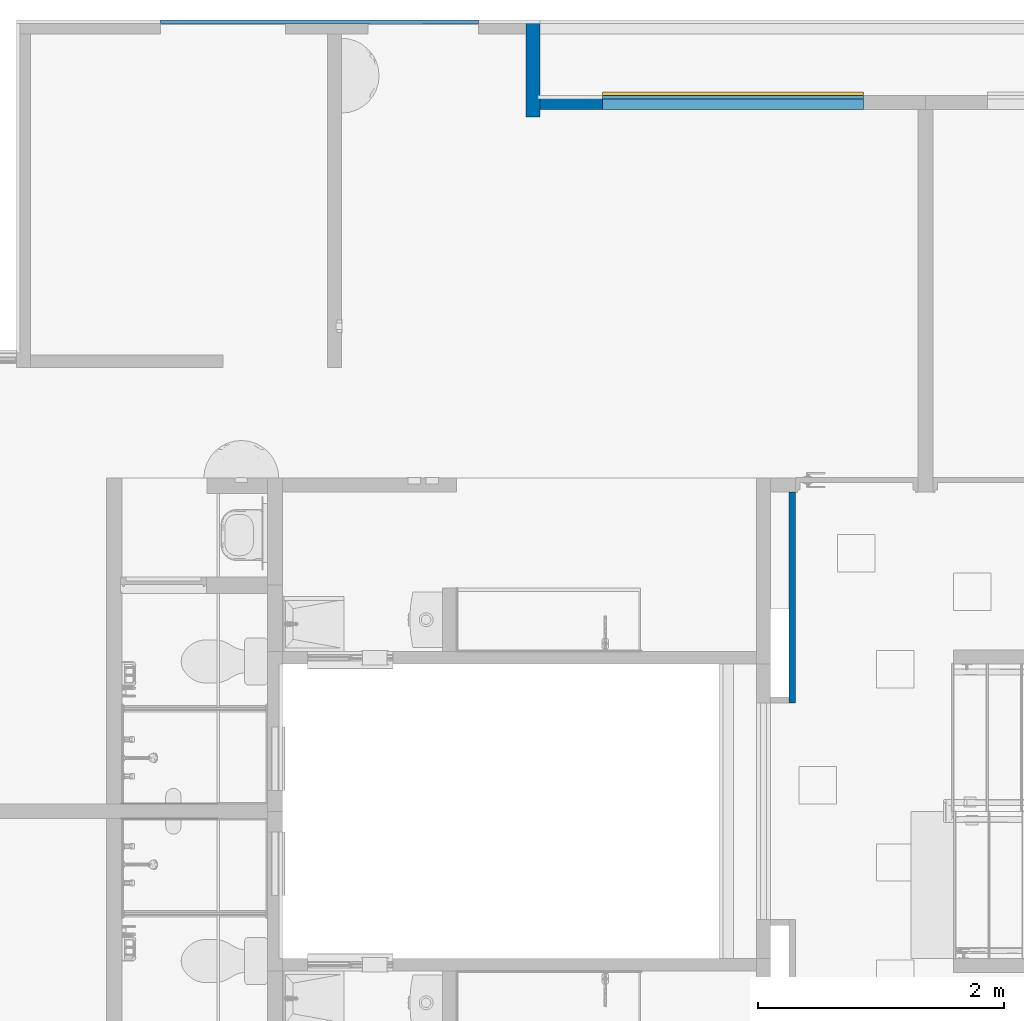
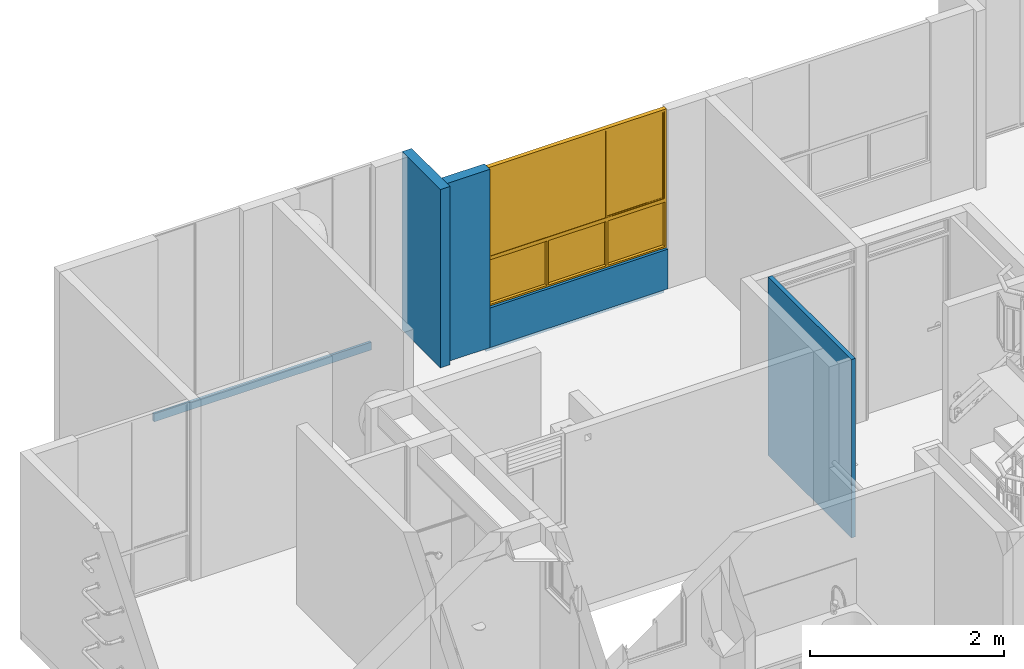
# One storey, part 20 of 51: 6 walls, 1 window, 1 opening.
"""IFC4 building model written with IfcOpenShell, lengths in metres."""

from ifc_helpers import new_model, entity, si_unit, converted_unit, derived_unit, direction, frame, origin, place, context, subcontext, project, spatial, indexed_curve, outline, extrude, polygons, source, transform, mapped, material, constituent, constituent_set, type_object, type_shapes, element, fill, save


model = new_model("IFC4")

# Units and contexts
model_context = context("Model", 3, precision=1e-05, world=origin(), true_north=direction((6.123031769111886e-17, 1.0)))
body_context = subcontext(model_context, "Body", "Model", "MODEL_VIEW")
ifc_project = project(units=[si_unit("LENGTHUNIT", "METRE"), si_unit("AREAUNIT", "SQUARE_METRE"), si_unit("VOLUMEUNIT", "CUBIC_METRE"), converted_unit("PLANEANGLEUNIT", "DEGREE", entity("IfcRatioMeasure", 0.017453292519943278), si_unit("PLANEANGLEUNIT", "RADIAN"), dimensions=[0, 0, 0, 0, 0, 0, 0]), si_unit("MASSUNIT", "GRAM", prefix="KILO"), derived_unit("MASSDENSITYUNIT", [(si_unit("MASSUNIT", "GRAM", prefix="KILO"), 1), (si_unit("LENGTHUNIT", "METRE"), -3)]), derived_unit("IONCONCENTRATIONUNIT", [(si_unit("MASSUNIT", "GRAM", prefix="KILO"), 1), (si_unit("LENGTHUNIT", "METRE"), -3)]), derived_unit("MOMENTOFINERTIAUNIT", [(si_unit("LENGTHUNIT", "METRE"), 4)]), si_unit("TIMEUNIT", "SECOND"), si_unit("FREQUENCYUNIT", "HERTZ"), si_unit("THERMODYNAMICTEMPERATUREUNIT", "DEGREE_CELSIUS"), derived_unit("THERMALTRANSMITTANCEUNIT", [(si_unit("MASSUNIT", "GRAM", prefix="KILO"), 1), (si_unit("THERMODYNAMICTEMPERATUREUNIT", "KELVIN"), -1), (si_unit("TIMEUNIT", "SECOND"), -3)]), derived_unit("THERMALCONDUCTANCEUNIT", [(si_unit("MASSUNIT", "GRAM", prefix="KILO"), 1), (si_unit("THERMODYNAMICTEMPERATUREUNIT", "KELVIN"), -1), (si_unit("TIMEUNIT", "SECOND"), -3), (si_unit("LENGTHUNIT", "METRE"), 1)]), derived_unit("VOLUMETRICFLOWRATEUNIT", [(si_unit("LENGTHUNIT", "METRE"), 3), (si_unit("TIMEUNIT", "SECOND"), -1)]), derived_unit("MASSFLOWRATEUNIT", [(si_unit("MASSUNIT", "GRAM", prefix="KILO"), 1), (si_unit("TIMEUNIT", "SECOND"), -1)]), derived_unit("ROTATIONALFREQUENCYUNIT", [(si_unit("TIMEUNIT", "SECOND"), -1)]), si_unit("ELECTRICCURRENTUNIT", "AMPERE"), si_unit("ELECTRICVOLTAGEUNIT", "VOLT"), si_unit("POWERUNIT", "WATT"), si_unit("FORCEUNIT", "NEWTON", prefix="KILO"), si_unit("ILLUMINANCEUNIT", "LUX"), si_unit("LUMINOUSFLUXUNIT", "LUMEN"), si_unit("LUMINOUSINTENSITYUNIT", "CANDELA"), derived_unit("USERDEFINED", [(si_unit("MASSUNIT", "GRAM", prefix="KILO"), -1), (si_unit("LENGTHUNIT", "METRE"), -2), (si_unit("TIMEUNIT", "SECOND"), 3), (si_unit("LUMINOUSFLUXUNIT", "LUMEN"), 1)]), derived_unit("USERDEFINED", [(si_unit("MASSUNIT", "GRAM", prefix="KILO"), 1), (si_unit("TIMEUNIT", "SECOND"), -3), (si_unit("LENGTHUNIT", "METRE"), 3), (si_unit("ELECTRICCURRENTUNIT", "AMPERE"), -2)]), derived_unit("SOUNDPOWERUNIT", [(si_unit("MASSUNIT", "GRAM", prefix="KILO"), 1), (si_unit("TIMEUNIT", "SECOND"), -3), (si_unit("LENGTHUNIT", "METRE"), 2)]), derived_unit("SOUNDPRESSUREUNIT", [(si_unit("MASSUNIT", "GRAM", prefix="KILO"), 1), (si_unit("LENGTHUNIT", "METRE"), -1), (si_unit("TIMEUNIT", "SECOND"), -2)]), derived_unit("LINEARVELOCITYUNIT", [(si_unit("LENGTHUNIT", "METRE"), 1), (si_unit("TIMEUNIT", "SECOND"), -1)]), si_unit("PRESSUREUNIT", "PASCAL"), derived_unit("USERDEFINED", [(si_unit("MASSUNIT", "GRAM", prefix="KILO"), 1), (si_unit("LENGTHUNIT", "METRE"), -2), (si_unit("TIMEUNIT", "SECOND"), -2)]), derived_unit("LINEARFORCEUNIT", [(si_unit("MASSUNIT", "GRAM", prefix="KILO"), 1), (si_unit("TIMEUNIT", "SECOND"), -2)]), derived_unit("PLANARFORCEUNIT", [(si_unit("MASSUNIT", "GRAM", prefix="KILO"), 1), (si_unit("LENGTHUNIT", "METRE"), -1), (si_unit("TIMEUNIT", "SECOND"), -2)]), derived_unit("SPECIFICHEATCAPACITYUNIT", [(si_unit("THERMODYNAMICTEMPERATUREUNIT", "KELVIN"), -1), (si_unit("LENGTHUNIT", "METRE"), 2), (si_unit("TIMEUNIT", "SECOND"), -2)]), derived_unit("HEATINGVALUEUNIT", [(si_unit("LENGTHUNIT", "METRE"), 2), (si_unit("TIMEUNIT", "SECOND"), -2)]), derived_unit("VAPORPERMEABILITYUNIT", [(si_unit("LENGTHUNIT", "METRE"), -1), (si_unit("TIMEUNIT", "SECOND"), 1)]), derived_unit("DYNAMICVISCOSITYUNIT", [(si_unit("MASSUNIT", "GRAM", prefix="KILO"), 1), (si_unit("TIMEUNIT", "SECOND"), -1), (si_unit("LENGTHUNIT", "METRE"), -1)]), derived_unit("THERMALEXPANSIONCOEFFICIENTUNIT", [(si_unit("THERMODYNAMICTEMPERATUREUNIT", "KELVIN"), -1)]), derived_unit("MODULUSOFELASTICITYUNIT", [(si_unit("MASSUNIT", "GRAM", prefix="KILO"), 1), (si_unit("LENGTHUNIT", "METRE"), -1), (si_unit("TIMEUNIT", "SECOND"), -2)]), derived_unit("ISOTHERMALMOISTURECAPACITYUNIT", [(si_unit("LENGTHUNIT", "METRE"), 3), (si_unit("MASSUNIT", "GRAM", prefix="KILO"), -1)]), derived_unit("MOISTUREDIFFUSIVITYUNIT", [(si_unit("TIMEUNIT", "SECOND"), -1), (si_unit("LENGTHUNIT", "METRE"), 2)])], contexts=[model_context])

# Site, building, storey
site_placement = place(None, origin())
site = spatial("IfcSite", under=ifc_project, at=site_placement, Name="Default", CompositionType="ELEMENT")
building_placement = place(site_placement, origin())
building = spatial("IfcBuilding", under=site, at=building_placement, CompositionType="ELEMENT")
storey_placement = place(building_placement, frame((0.0, 0.0, 2.350000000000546)))
storey = spatial("IfcBuildingStorey", under=building, at=storey_placement, Name="Nivel 2", CompositionType="ELEMENT", Elevation=2.350000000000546)

# Wall
ifc_material_1 = material(Name="Ladrillo claro (Aire)", Category="Materials")
wall_type_1 = type_object("IfcWallType", Name="Basic Wall:B2010 - 0.115m - Muro exterior en mampostería - Ladrillo", PredefinedType="STANDARD")
wall_1_placement = place(storey_placement, frame((6.124999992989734, 0.01999997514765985, 0.0), z_axis=(0.0, 0.0, 1.0), x_axis=(0.0, -1.0, 0.0)))
element("IfcWall", 1, at=wall_1_placement, inside=storey, type_object=wall_type_1, material=ifc_material_1, Name="Basic Wall:B2010 - 0.115m - Muro exterior en mampostería - Ladrillo", ObjectType="Basic Wall:B2010 - 0.115m - Muro exterior en mampostería - Ladrillo", PredefinedType="NOTDEFINED", context=body_context, shape_type="SweptSolid", body=[
    extrude(outline(indexed_curve([(0.7899180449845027, 0.05750000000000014), (1.6929241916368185e-18, 0.057499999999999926), (-1.6929241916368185e-18, -0.057499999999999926), (0.7899180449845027, -0.057499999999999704), (0.7899180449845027, 0.05750000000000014)], self_intersect=False)), origin(), (0.0, 0.0, 1.0), 2.2500000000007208),
])

# Wall, opening, window
wall_2_placement = place(storey_placement, frame((6.692499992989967, -0.6525000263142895, 0.0)))
wall_2 = element("IfcWall", 2, at=wall_2_placement, inside=storey, type_object=wall_type_1, material=ifc_material_1, Name="Basic Wall:B2010 - 0.115m - Muro exterior en mampostería - Ladrillo", ObjectType="Basic Wall:B2010 - 0.115m - Muro exterior en mampostería - Ladrillo", PredefinedType="NOTDEFINED", context=body_context, shape_type="Tessellation", body=[
    polygons([(4.788365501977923e-16, -0.05750000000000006, 0.0), (2.1249999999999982, -0.05750000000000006, 0.0), (2.1249999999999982, -0.05750000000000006, 0.49999999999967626), (4.788365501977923e-16, -0.05750000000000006, 0.49999999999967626), (2.1249999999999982, 0.05749999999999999, 0.0), (5.461691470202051e-16, 0.05749999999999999, 0.0), (5.461691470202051e-16, 0.05749999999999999, 0.49999999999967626), (2.1249999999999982, 0.05749999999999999, 0.49999999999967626)], [[[1, 2, 3, 4]], [[5, 6, 7, 8]], [[2, 1, 6, 5]], [[2, 5, 8, 3]], [[6, 1, 4, 7]], [[4, 3, 8, 7]]], closed=True),
])
opening_placement = place(wall_2_placement, frame((0.0, -0.0575000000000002, 0.4999999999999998)))
opening = element("IfcOpeningElement", 3, at=opening_placement, cuts=wall_2, Name="B2020 - 6c Ventana corrediza - Aluminio + Vidrio:B2020 -2.13m x 1.750m - Ventana corrediza 2C - Aluminio + Vidrio:1", PredefinedType="OPENING", context=body_context, shape_type="SweptSolid", body=[
    extrude(outline(indexed_curve([(0.0, 2.125), (0.0, 0.0), (1.7499999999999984, 0.0), (1.7499999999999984, 2.125), (0.0, 2.125)], self_intersect=False)), frame((0.0, 0.0, 0.0), z_axis=(0.0, 1.0, 0.0), x_axis=(0.0, 0.0, 1.0)), (0.0, 0.0, 1.0), 0.115),
])
ifc_material_2 = material(Name="Aluminio", Category="Materials")
ifc_constituent_1 = constituent(ifc_material_2, Name="Aluminio", Category="Materials")
ifc_material_3 = material(Name="Vidrio", Category="Materials")
ifc_constituent_2 = constituent(ifc_material_3, Name="Vidrio", Category="Materials")
ifc_material_4 = material(Name="Alfajía en aluminio", Category="Materials")
ifc_constituent_3 = constituent(ifc_material_4, Name="Alfajía en aluminio", Category="Materials")
ifc_constituent_set_1 = constituent_set(constituents=[ifc_constituent_1, ifc_constituent_2, ifc_constituent_3])
ifc_constituent_4 = constituent(ifc_material_2, Name="Aluminio", Category="Materials")
ifc_constituent_5 = constituent(ifc_material_3, Name="Vidrio", Category="Materials")
ifc_constituent_6 = constituent(ifc_material_4, Name="Alfajía en aluminio", Category="Materials")
ifc_constituent_set_2 = constituent_set(constituents=[ifc_constituent_4, ifc_constituent_5, ifc_constituent_6])
window_type = type_object("IfcWindowType", Name="B2020 - 6c Ventana corrediza - Aluminio + Vidrio:B2020 -2.13m x 1.750m - Ventana corrediza 2C - Aluminio + Vidrio", PartitioningType="NOTDEFINED", PredefinedType="WINDOW", material=ifc_constituent_set_2)
shared_shape = source(origin(), body_context, "Body", "Tessellation", [
    polygons([(1.3916666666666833, 0.03749999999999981, 1.7249999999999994), (1.3916666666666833, 0.03749999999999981, 0.6249999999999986), (1.391666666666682, 0.032499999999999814, 0.6249999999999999), (1.3916666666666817, 0.032499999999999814, 1.7249999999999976), (-0.6833333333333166, 0.03249999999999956, 0.6249999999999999), (-0.6833333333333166, 0.032499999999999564, 1.7249999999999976), (-0.7083333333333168, 0.03249999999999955, 0.5999999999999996), (1.4166666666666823, 0.032499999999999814, 0.5999999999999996), (1.4166666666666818, 0.032499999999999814, 1.749999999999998), (-0.7083333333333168, 0.03249999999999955, 1.749999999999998), (-0.6833333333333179, 0.03749999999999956, 0.6249999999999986), (-0.6833333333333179, 0.03749999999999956, 1.7249999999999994), (-0.6883333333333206, 0.03749999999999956, 0.6199999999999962), (-0.6883333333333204, 0.03749999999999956, 1.7300000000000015), (1.3966666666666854, 0.03749999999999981, 1.7300000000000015), (1.3966666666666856, 0.03749999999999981, 0.6199999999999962), (1.3966666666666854, 0.05499999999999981, 1.7300000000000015), (1.3966666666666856, 0.05499999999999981, 0.6199999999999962), (-0.6883333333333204, 0.05499999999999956, 0.6199999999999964), (-0.6883333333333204, 0.05499999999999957, 1.7300000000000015), (-0.6833333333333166, 0.05499999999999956, 0.6249999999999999), (-0.6833333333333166, 0.05499999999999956, 1.7249999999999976), (1.3916666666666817, 0.05499999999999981, 1.7249999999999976), (1.391666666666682, 0.05499999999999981, 0.6249999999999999), (1.3916666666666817, 0.05999999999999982, 1.7249999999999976), (1.391666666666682, 0.05999999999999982, 0.6249999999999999), (-0.6833333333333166, 0.059999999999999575, 0.6249999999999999), (-0.6833333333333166, 0.059999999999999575, 1.7249999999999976), (-0.7033333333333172, 0.05999999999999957, 0.6049999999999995), (-0.7033333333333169, 0.05999999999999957, 1.744999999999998), (1.411666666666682, 0.05999999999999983, 1.744999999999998), (1.4116666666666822, 0.05999999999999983, 0.6049999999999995), (1.411666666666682, 0.07749999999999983, 1.744999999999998), (1.4116666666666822, 0.07749999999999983, 0.6049999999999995), (-0.7033333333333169, 0.07749999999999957, 0.6049999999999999), (-0.7033333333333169, 0.07749999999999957, 1.744999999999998), (-0.6833333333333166, 0.07749999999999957, 0.6249999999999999), (-0.6833333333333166, 0.07749999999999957, 1.7249999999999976), (1.3916666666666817, 0.07749999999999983, 1.7249999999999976), (1.391666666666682, 0.07749999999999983, 0.6249999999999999), (1.3916666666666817, 0.08249999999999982, 1.7249999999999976), (1.391666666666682, 0.08249999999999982, 0.6249999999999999), (-0.6833333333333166, 0.08249999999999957, 0.6249999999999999), (-0.6833333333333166, 0.08249999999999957, 1.7249999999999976), (-0.7083333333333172, 0.08249999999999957, 0.5999999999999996), (-0.7083333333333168, 0.08249999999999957, 1.749999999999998), (1.4166666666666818, 0.08249999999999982, 1.749999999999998), (1.4166666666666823, 0.08249999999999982, 0.5999999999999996)], [[[1, 2, 3, 4]], [[7, 8, 9, 10], [5, 6, 4, 3]], [[2, 11, 5, 3]], [[13, 14, 15, 16], [11, 2, 1, 12]], [[17, 18, 16, 15]], [[18, 19, 13, 16]], [[19, 18, 17, 20], [21, 22, 23, 24]], [[25, 26, 24, 23]], [[26, 27, 21, 24]], [[29, 30, 31, 32], [27, 26, 25, 28]], [[33, 34, 32, 31]], [[34, 35, 29, 32]], [[35, 34, 33, 36], [37, 38, 39, 40]], [[41, 42, 40, 39]], [[42, 43, 37, 40]], [[45, 46, 47, 48], [43, 42, 41, 44]], [[9, 8, 48, 47]], [[8, 7, 45, 48]], [[11, 12, 6, 5]], [[19, 20, 14, 13]], [[27, 28, 22, 21]], [[35, 36, 30, 29]], [[43, 44, 38, 37]], [[7, 10, 46, 45]], [[12, 1, 4, 6]], [[20, 17, 15, 14]], [[28, 25, 23, 22]], [[36, 33, 31, 30]], [[44, 41, 39, 38]], [[10, 9, 47, 46]]], closed=True),
    polygons([(-0.009999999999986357, 0.08249999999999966, 0.6249999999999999), (0.010000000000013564, 0.08249999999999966, 0.6249999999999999), (0.010000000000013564, 0.05999999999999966, 0.6249999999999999), (-0.009999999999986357, 0.05999999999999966, 0.6249999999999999), (-0.009999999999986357, 0.08249999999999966, 1.7249999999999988), (-0.009999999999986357, 0.05999999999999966, 1.7249999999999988), (0.010000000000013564, 0.05999999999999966, 1.7249999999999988), (0.010000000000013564, 0.08249999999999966, 1.7249999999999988)], [[[1, 2, 3, 4]], [[5, 1, 4, 6]], [[6, 4, 3, 7]], [[7, 3, 2, 8]], [[8, 2, 1, 5]], [[5, 6, 7, 8]]], closed=True),
    polygons([(0.7108333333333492, 0.06674999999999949, 1.7299999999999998), (-0.6833333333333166, 0.06674999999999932, 1.7299999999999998), (-0.6833333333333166, 0.06674999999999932, 0.6174999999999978), (0.7108333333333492, 0.06674999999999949, 0.6174999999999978), (0.7108333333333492, 0.0707499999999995, 0.6174999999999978), (0.7108333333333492, 0.0707499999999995, 1.7299999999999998), (-0.6833333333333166, 0.07074999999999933, 0.6174999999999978), (-0.6833333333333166, 0.07074999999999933, 1.7299999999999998)], [[[1, 2, 3, 4]], [[4, 5, 6, 1]], [[3, 7, 5, 4]], [[2, 8, 7, 3]], [[6, 5, 7, 8]], [[1, 6, 8, 2]]], closed=True),
    polygons([(0.7108333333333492, 0.07074999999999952, 0.6225000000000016), (-0.6783333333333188, 0.07074999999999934, 0.6225000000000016), (-0.6783333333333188, 0.06674999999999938, 0.6225000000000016), (0.7108333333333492, 0.06674999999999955, 0.6225000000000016), (-0.6783333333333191, 0.07074999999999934, 1.730000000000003), (-0.6783333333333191, 0.06674999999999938, 1.730000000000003), (0.7108333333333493, 0.06674999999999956, 1.730000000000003), (-0.6633333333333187, 0.06674999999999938, 1.7150000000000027), (-0.6633333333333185, 0.06674999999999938, 0.637500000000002), (0.695833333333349, 0.06674999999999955, 0.637500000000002), (0.695833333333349, 0.06674999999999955, 1.7150000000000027), (0.7108333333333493, 0.07074999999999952, 1.730000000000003), (-0.6633333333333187, 0.07074999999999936, 0.637500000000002), (-0.6633333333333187, 0.07074999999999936, 1.7150000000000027), (0.695833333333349, 0.07074999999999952, 1.7150000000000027), (0.695833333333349, 0.07074999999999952, 0.6375000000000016), (0.695833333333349, 0.07549999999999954, 0.637500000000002), (-0.6633333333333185, 0.07549999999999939, 0.6375000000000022), (-0.6633333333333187, 0.07549999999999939, 1.7150000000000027), (0.695833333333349, 0.07549999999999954, 1.7150000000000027), (-0.6833333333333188, 0.07549999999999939, 0.6175000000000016), (-0.683333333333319, 0.07549999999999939, 1.735000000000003), (0.7158333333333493, 0.07549999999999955, 1.735000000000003), (0.7158333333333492, 0.07549999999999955, 0.6175000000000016), (0.7158333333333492, 0.06199999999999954, 0.6175000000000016), (-0.6833333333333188, 0.061999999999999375, 0.6175000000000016), (-0.683333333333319, 0.061999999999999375, 1.735000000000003), (0.7158333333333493, 0.06199999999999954, 1.735000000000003), (-0.6633333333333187, 0.06199999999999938, 0.637500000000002), (-0.6633333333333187, 0.06199999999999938, 1.7150000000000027), (0.695833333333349, 0.06199999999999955, 1.7150000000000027), (0.695833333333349, 0.06199999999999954, 0.6375000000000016)], [[[1, 2, 3, 4]], [[2, 5, 6, 3]], [[3, 6, 7, 4], [8, 9, 10, 11]], [[5, 2, 1, 12], [13, 14, 15, 16]], [[17, 18, 13, 16]], [[18, 19, 14, 13]], [[21, 22, 23, 24], [19, 18, 17, 20]], [[25, 26, 21, 24]], [[26, 27, 22, 21]], [[27, 26, 25, 28], [29, 30, 31, 32]], [[10, 9, 29, 32]], [[9, 8, 30, 29]], [[12, 1, 4, 7]], [[20, 17, 16, 15]], [[28, 25, 24, 23]], [[11, 10, 32, 31]], [[5, 12, 7, 6]], [[19, 20, 15, 14]], [[27, 28, 23, 22]], [[8, 11, 31, 30]]], closed=True),
    polygons([(1.3916666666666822, 0.04424999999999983, 1.7299999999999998), (0.7033333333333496, 0.04424999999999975, 1.7299999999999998), (0.7033333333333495, 0.04424999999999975, 0.6174999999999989), (1.391666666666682, 0.04424999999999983, 0.6174999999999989), (1.391666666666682, 0.04824999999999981, 0.6174999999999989), (1.3916666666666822, 0.04824999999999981, 1.7299999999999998), (0.7033333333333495, 0.048249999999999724, 0.6174999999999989), (0.7033333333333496, 0.048249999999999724, 1.7299999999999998)], [[[1, 2, 3, 4]], [[4, 5, 6, 1]], [[3, 7, 5, 4]], [[2, 8, 7, 3]], [[6, 5, 7, 8]], [[1, 6, 8, 2]]], closed=True),
    polygons([(1.391666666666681, 0.04824999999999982, 0.6224999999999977), (0.7033333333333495, 0.04824999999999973, 0.6224999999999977), (0.7033333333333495, 0.044249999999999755, 0.6224999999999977), (1.391666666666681, 0.04424999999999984, 0.6224999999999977), (0.7033333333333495, 0.04824999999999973, 1.729999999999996), (0.7033333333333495, 0.044249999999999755, 1.729999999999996), (1.391666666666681, 0.04424999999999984, 1.729999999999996), (0.7183333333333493, 0.044249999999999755, 1.714999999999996), (0.7183333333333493, 0.044249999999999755, 0.6374999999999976), (1.3766666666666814, 0.04424999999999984, 0.6374999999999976), (1.3766666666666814, 0.04424999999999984, 1.714999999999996), (1.391666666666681, 0.04824999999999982, 1.729999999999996), (0.7183333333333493, 0.04824999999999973, 0.6374999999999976), (0.7183333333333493, 0.04824999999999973, 1.714999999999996), (1.3766666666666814, 0.04824999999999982, 1.714999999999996), (1.3766666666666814, 0.04824999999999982, 0.6374999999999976), (1.3766666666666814, 0.052999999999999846, 0.6374999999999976), (0.7183333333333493, 0.05299999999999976, 0.6374999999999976), (0.7183333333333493, 0.05299999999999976, 1.714999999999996), (1.3766666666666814, 0.052999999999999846, 1.714999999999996), (0.6983333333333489, 0.052999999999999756, 0.6174999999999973), (0.6983333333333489, 0.05299999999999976, 1.7349999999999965), (1.3966666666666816, 0.052999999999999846, 1.7349999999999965), (1.3966666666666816, 0.052999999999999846, 0.6174999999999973), (1.3966666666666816, 0.03949999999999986, 0.6174999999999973), (0.6983333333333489, 0.03949999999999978, 0.6174999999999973), (0.6983333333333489, 0.03949999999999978, 1.7349999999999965), (1.3966666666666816, 0.03949999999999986, 1.7349999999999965), (0.7183333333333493, 0.039499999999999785, 0.6374999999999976), (0.7183333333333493, 0.03949999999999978, 1.714999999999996), (1.3766666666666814, 0.039499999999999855, 1.714999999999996), (1.3766666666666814, 0.039499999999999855, 0.6374999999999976)], [[[1, 2, 3, 4]], [[2, 5, 6, 3]], [[3, 6, 7, 4], [8, 9, 10, 11]], [[5, 2, 1, 12], [13, 14, 15, 16]], [[17, 18, 13, 16]], [[18, 19, 14, 13]], [[21, 22, 23, 24], [19, 18, 17, 20]], [[25, 26, 21, 24]], [[26, 27, 22, 21]], [[27, 26, 25, 28], [29, 30, 31, 32]], [[10, 9, 29, 32]], [[9, 8, 30, 29]], [[12, 1, 4, 7]], [[20, 17, 16, 15]], [[28, 25, 24, 23]], [[11, 10, 32, 31]], [[5, 12, 7, 6]], [[19, 20, 15, 14]], [[27, 28, 23, 22]], [[8, 11, 31, 30]]], closed=True),
    polygons([(-0.6883333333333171, 0.04424999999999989, 1.7299999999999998), (-0.6883333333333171, 0.04424999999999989, 0.6174999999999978), (1.3916666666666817, 0.04424999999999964, 0.6174999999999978), (1.3916666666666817, 0.04424999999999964, 1.7299999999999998), (1.3916666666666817, 0.04824999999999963, 0.6174999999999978), (1.3916666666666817, 0.04824999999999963, 1.7299999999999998), (-0.6883333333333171, 0.04824999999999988, 0.6174999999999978), (-0.6883333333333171, 0.04824999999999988, 1.7299999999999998)], [[[1, 2, 3, 4]], [[3, 5, 6, 4]], [[2, 7, 5, 3]], [[1, 8, 7, 2]], [[8, 6, 5, 7]], [[4, 6, 8, 1]]], closed=True),
    polygons([(1.3966666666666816, 0.06674999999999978, 1.7299999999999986), (-0.6883333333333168, 0.06674999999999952, 1.7299999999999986), (-0.6883333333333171, 0.06674999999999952, 0.6174999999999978), (1.3966666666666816, 0.06674999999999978, 0.6174999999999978), (1.3966666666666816, 0.07074999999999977, 0.6174999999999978), (1.3966666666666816, 0.07074999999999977, 1.7299999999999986), (-0.6883333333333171, 0.07074999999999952, 0.6174999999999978), (-0.6883333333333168, 0.07074999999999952, 1.7299999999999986)], [[[1, 2, 3, 4]], [[4, 5, 6, 1]], [[3, 7, 5, 4]], [[2, 8, 7, 3]], [[6, 5, 7, 8]], [[1, 6, 8, 2]]], closed=True),
    polygons([(1.3966666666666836, 0.06813901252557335, 0.5800000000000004), (-0.6883333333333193, 0.06813901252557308, 0.5800000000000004), (-0.6883333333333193, 0.06813901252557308, 0.019999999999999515), (1.3966666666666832, 0.06813901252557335, 0.019999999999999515), (1.3966666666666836, 0.07213901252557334, 0.5800000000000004), (1.3966666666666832, 0.07213901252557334, 0.019999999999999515), (-0.6883333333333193, 0.07213901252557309, 0.019999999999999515), (-0.6883333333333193, 0.07213901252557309, 0.5800000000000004)], [[[1, 2, 3, 4]], [[5, 6, 7, 8]], [[4, 6, 5, 1]], [[3, 7, 6, 4]], [[2, 8, 7, 3]], [[1, 5, 8, 2]]], closed=True),
    polygons([(-0.009999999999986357, 0.08250000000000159, 0.5799999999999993), (-0.009999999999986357, 0.03250000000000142, 0.5799999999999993), (0.010000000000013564, 0.03250000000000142, 0.5799999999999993), (0.010000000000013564, 0.08250000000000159, 0.5799999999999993), (-0.009999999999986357, 0.08250000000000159, 0.019999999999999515), (0.010000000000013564, 0.08250000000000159, 0.019999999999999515), (0.010000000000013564, 0.03250000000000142, 0.019999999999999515), (-0.009999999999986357, 0.03250000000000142, 0.019999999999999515)], [[[1, 2, 3, 4]], [[5, 6, 7, 8]], [[4, 6, 5, 1]], [[3, 7, 6, 4]], [[2, 8, 7, 3]], [[1, 5, 8, 2]]], closed=True),
    polygons([(1.4166666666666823, 0.08249999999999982, 2.707167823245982e-16), (-0.7083333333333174, 0.08249999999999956, 4.060751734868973e-16), (-0.7083333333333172, 0.08249999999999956, 0.5999999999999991), (1.4166666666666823, 0.08249999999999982, 0.5999999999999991), (0.6983333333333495, 0.08250000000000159, 0.5799999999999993), (-0.6883333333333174, 0.0825000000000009, 0.5799999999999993), (-0.6883333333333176, 0.0825000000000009, 0.020000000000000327), (0.6983333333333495, 0.08250000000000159, 0.01999999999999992), (0.7183333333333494, 0.08250000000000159, 0.01999999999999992), (1.3966666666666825, 0.08250000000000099, 0.020000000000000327), (1.3966666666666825, 0.08250000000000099, 0.5799999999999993), (0.7183333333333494, 0.08250000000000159, 0.5799999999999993), (0.7183333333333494, 0.03250000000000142, 0.5799999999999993), (0.7183333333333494, 0.03250000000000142, 0.01999999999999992), (1.4166666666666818, 0.03250000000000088, 0.5999999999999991), (-0.7083333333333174, 0.0325000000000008, 0.5999999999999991), (-0.7083333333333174, 0.0325000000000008, 4.060751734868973e-16), (1.4166666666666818, 0.03250000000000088, 4.060751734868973e-16), (1.3966666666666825, 0.032499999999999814, 0.5799999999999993), (1.3966666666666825, 0.032499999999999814, 0.020000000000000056), (0.6983333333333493, 0.03250000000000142, 0.01999999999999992), (-0.6883333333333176, 0.03249999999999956, 0.020000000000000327), (-0.6883333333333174, 0.03249999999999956, 0.5799999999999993), (0.6983333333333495, 0.03250000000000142, 0.5799999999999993)], [[[1, 2, 3, 4], [5, 6, 7, 8], [9, 10, 11, 12]], [[12, 13, 14, 9]], [[15, 16, 17, 18], [13, 19, 20, 14], [21, 22, 23, 24]], [[8, 21, 24, 5]], [[11, 10, 20, 19]], [[15, 18, 1, 4]], [[10, 9, 14, 20]], [[18, 17, 2, 1]], [[7, 6, 23, 22]], [[17, 16, 3, 2]], [[6, 5, 24, 23]], [[4, 3, 16, 15]], [[19, 13, 12, 11]], [[22, 21, 8, 7]]], closed=True),
    polygons([(0.6983333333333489, 0.07213901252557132, 0.5849999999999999), (-0.6883333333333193, 0.07213901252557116, 0.5849999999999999), (-0.6883333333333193, 0.06813901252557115, 0.5849999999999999), (0.6983333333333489, 0.06813901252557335, 0.5849999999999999), (0.6983333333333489, 0.07213901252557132, 0.019999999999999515), (0.6983333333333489, 0.06813901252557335, 0.019999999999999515), (-0.6883333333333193, 0.06813901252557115, 0.019999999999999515), (-0.6883333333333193, 0.07213901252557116, 0.019999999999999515)], [[[1, 2, 3, 4]], [[5, 6, 7, 8]], [[1, 5, 8, 2]], [[2, 8, 7, 3]], [[3, 7, 6, 4]], [[4, 6, 5, 1]]], closed=True),
    polygons([(1.4166666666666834, 0.11499999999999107, -4.060751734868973e-16), (1.416666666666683, 0.1409807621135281, -0.015000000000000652), (1.416666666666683, 0.14348076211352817, -0.010669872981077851), (1.4166666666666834, 0.11633974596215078, 0.0049999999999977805), (1.4166666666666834, 0.08249999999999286, 0.0049999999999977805), (1.4166666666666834, 0.08249999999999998, -4.060751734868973e-16), (-0.7083333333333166, 0.11499999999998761, -4.060751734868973e-16), (-0.7083333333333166, 0.08249999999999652, -4.060751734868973e-16), (-0.7083333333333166, 0.0824999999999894, 0.0049999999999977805), (-0.7083333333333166, 0.11633974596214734, 0.0049999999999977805), (-0.7083333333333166, 0.1434807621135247, -0.010669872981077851), (-0.7083333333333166, 0.14098076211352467, -0.015000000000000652)], [[[1, 2, 3, 4, 5, 6]], [[7, 8, 9, 10, 11, 12]], [[6, 8, 7, 1]], [[5, 9, 8, 6]], [[4, 10, 9, 5]], [[3, 11, 10, 4]], [[2, 12, 11, 3]], [[1, 7, 12, 2]]], closed=True),
    polygons([(0.7183333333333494, 0.07213901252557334, 0.5849999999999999), (0.7183333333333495, 0.06813901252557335, 0.5849999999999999), (1.3966666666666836, 0.06813901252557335, 0.5849999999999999), (1.3966666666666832, 0.07213901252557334, 0.5849999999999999), (0.7183333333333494, 0.07213901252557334, 0.019999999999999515), (1.3966666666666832, 0.07213901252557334, 0.019999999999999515), (1.3966666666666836, 0.06813901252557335, 0.019999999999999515), (0.7183333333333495, 0.06813901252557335, 0.019999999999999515)], [[[1, 2, 3, 4]], [[5, 6, 7, 8]], [[4, 6, 5, 1]], [[3, 7, 6, 4]], [[2, 8, 7, 3]], [[1, 5, 8, 2]]], closed=True),
])
type_shapes(window_type, [shared_shape])
window_placement = place(opening_placement, frame((0.7083333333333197, 0.0, 0.0)))
window = element("IfcWindow", 4, at=window_placement, inside=storey, type_object=window_type, material=ifc_constituent_set_1, Name="B2020 - 6c Ventana corrediza - Aluminio + Vidrio:B2020 -2.13m x 1.750m - Ventana corrediza 2C - Aluminio + Vidrio", ObjectType="B2020 - 6c Ventana corrediza - Aluminio + Vidrio:B2020 -2.13m x 1.750m - Ventana corrediza 2C - Aluminio + Vidrio", OverallHeight=1.7499999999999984, OverallWidth=2.125, PartitioningType="NOTDEFINED", PredefinedType="WINDOW", context=body_context, shape_type="MappedRepresentation", body=[
    mapped(shared_shape, transform((0.0, 0.0, 0.0), scale=1.0)),
])
fill(opening, window)

# Walls
ifc_material_5 = material(Name="LADRILLO CLARO", Category="Materials")
wall_type_2 = type_object("IfcWallType", Name="Basic Wall:B2010 - 0.115m - ME mampostería no estructural - Ladrillo", PredefinedType="STANDARD")
wall_3_placement = place(storey_placement, frame((6.1824999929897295, -0.652500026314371, 0.0)))
element("IfcWall", 5, at=wall_3_placement, inside=storey, type_object=wall_type_2, material=ifc_material_5, Name="Basic Wall:B2010 - 0.115m - ME mampostería no estructural - Ladrillo", ObjectType="Basic Wall:B2010 - 0.115m - ME mampostería no estructural - Ladrillo", PredefinedType="NOTDEFINED", context=body_context, shape_type="SweptSolid", body=[
    extrude(outline(indexed_curve([(0.5100000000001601, 0.0574999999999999), (-1.6469983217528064e-16, 0.057499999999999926), (1.6469983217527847e-16, -0.05750000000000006), (0.5100000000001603, -0.057500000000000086), (0.5100000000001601, 0.0574999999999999)], self_intersect=False)), origin(), (0.0, 0.0, 1.0), 2.2500000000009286),
])
ifc_material_6 = material(Name="0 muro divisorio", Category="Materials")
wall_type_3 = type_object("IfcWallType", Name="Basic Wall:B2010 - 0.05m - MI No estructural- Concreto", PredefinedType="STANDARD")
wall_4_placement = place(storey_placement, frame((8.237500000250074, -5.545000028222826, 0.0), z_axis=(0.0, 0.0, 1.0), x_axis=(0.0, 1.0, 0.0)))
element("IfcWall", 6, at=wall_4_placement, inside=storey, type_object=wall_type_3, material=ifc_material_6, Name="Basic Wall:B2010 - 0.05m - MI No estructural- Concreto", ObjectType="Basic Wall:B2010 - 0.05m - MI No estructural- Concreto", PredefinedType="NOTDEFINED", context=body_context, shape_type="SweptSolid", body=[
    extrude(outline(indexed_curve([(1.7199999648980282, 0.0249999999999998), (-1.2688523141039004e-16, 0.02499999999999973), (1.2688523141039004e-16, -0.02499999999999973), (1.7199999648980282, -0.024999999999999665), (1.7199999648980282, 0.0249999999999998)], self_intersect=False)), origin(), (0.0, 0.0, 1.0), 2.2499999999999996),
])
wall_type_4 = type_object("IfcWallType", Name="Basic Wall:B2010 - 0.03m - ME enchape  no estructural - Ladrillo", PredefinedType="STANDARD")
wall_5_placement = place(storey_placement, frame((5.68249999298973, 0.004999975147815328, -0.10000000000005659), z_axis=(0.0, 0.0, 1.0), x_axis=(-1.0, 0.0, 0.0)))
element("IfcWall", 7, at=wall_5_placement, inside=storey, type_object=wall_type_4, material=ifc_material_5, Name="Basic Wall:B2010 - 0.03m - ME enchape  no estructural - Ladrillo", ObjectType="Basic Wall:B2010 - 0.03m - ME enchape  no estructural - Ladrillo", PredefinedType="NOTDEFINED", context=body_context, shape_type="SweptSolid", body=[
    extrude(outline(indexed_curve([(2.5899999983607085, 0.015), (-1.4243869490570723e-16, 0.015), (1.424386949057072e-16, -0.014999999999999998), (2.5899999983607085, -0.015), (2.5899999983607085, 0.015)], self_intersect=False)), origin(), (0.0, 0.0, 1.0), 0.1),
])
wall_6_placement = place(storey_placement, frame((8.817500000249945, -0.6100000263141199, -0.10000000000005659), z_axis=(0.0, 0.0, 1.0), x_axis=(-1.0, 0.0, 0.0)))
element("IfcWall", 8, at=wall_6_placement, inside=storey, type_object=wall_type_4, material=ifc_material_5, Name="Basic Wall:B2010 - 0.03m - ME enchape  no estructural - Ladrillo", ObjectType="Basic Wall:B2010 - 0.03m - ME enchape  no estructural - Ladrillo", PredefinedType="NOTDEFINED", context=body_context, shape_type="SweptSolid", body=[
    extrude(outline(indexed_curve([(2.125000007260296, 0.014999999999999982), (-5.3566291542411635e-17, 0.014999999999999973), (5.356629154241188e-17, -0.015000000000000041), (2.125000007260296, -0.015000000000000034), (2.125000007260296, 0.014999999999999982)], self_intersect=False)), origin(), (0.0, 0.0, 1.0), 0.1),
])

save(model, "model.ifc")
